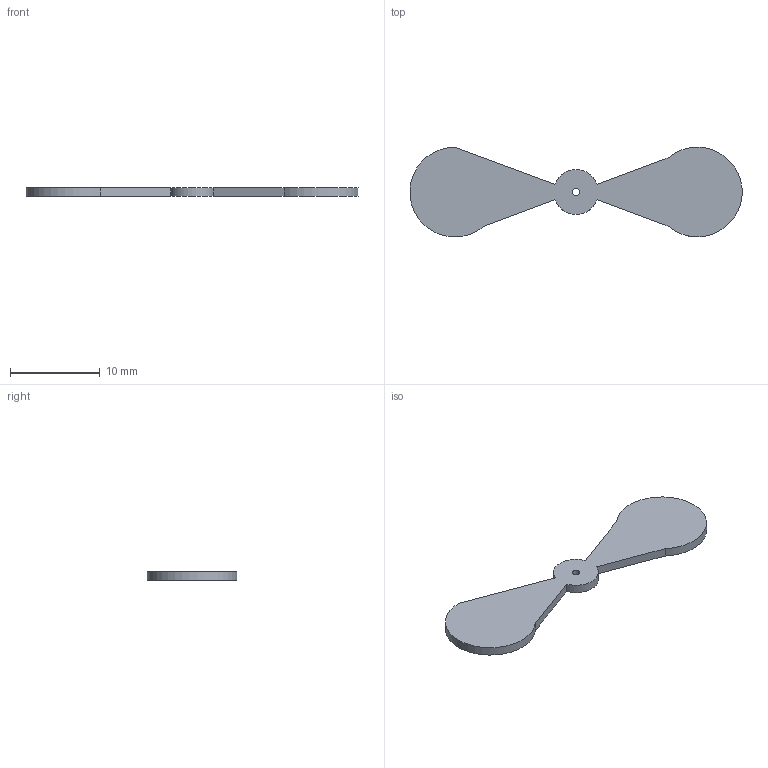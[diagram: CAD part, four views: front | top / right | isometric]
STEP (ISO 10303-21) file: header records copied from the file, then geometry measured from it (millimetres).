
FILE_DESCRIPTION(/* description */ ('STEP AP242 Edition 2','CAx-IF Rec.Pracs.---Representation and Presentation of Product Manufacturing Information (PMI)---4.0---2014-10-13','CAx-IF Rec.Pracs.---3D Tessellated Geometry---0.4---2014-09-14','2;1','CAx-IF Rec.Pracs.---User Defined Attributes---1.5---2016-08-15'),/* implementation_level */ '2;1');
FILE_NAME(/* name */ 'Drone Layout - Part 1',/* time_stamp */ '2026-10-04T22:22:50Z',/* author */ (''),/* organization */ (''),/* preprocessor_version */ 'ST-DEVELOPER v20',/* originating_system */ 'ONSHAPE BY PTC INC, 1.221',/* authorisation */ ' ');
FILE_SCHEMA (('AP242_MANAGED_MODEL_BASED_3D_ENGINEERING_MIM_LF { 1 0 10303 442 3 1 4 }'));
Length unit declared in the file: metre
Products named in the file (1): Part 1
Bounding box: 36.97 x 10 x 1 mm (x, y, z)
Volume: 230.4 mm3; surface area: 554.7 mm2
Topology: 1 solids, 1 shells, 11 faces, 27 edges, 18 vertices
Faces by surface type: plane 6, cylinder 5
Full cylindrical faces by diameter (mm): 0.8 x1
Entity records: 352 total; most frequent: DIRECTION 60, CARTESIAN_POINT 56, ORIENTED_EDGE 52, EDGE_CURVE 26, AXIS2_PLACEMENT_3D 22, VERTEX_POINT 18, LINE 16, VECTOR 16
